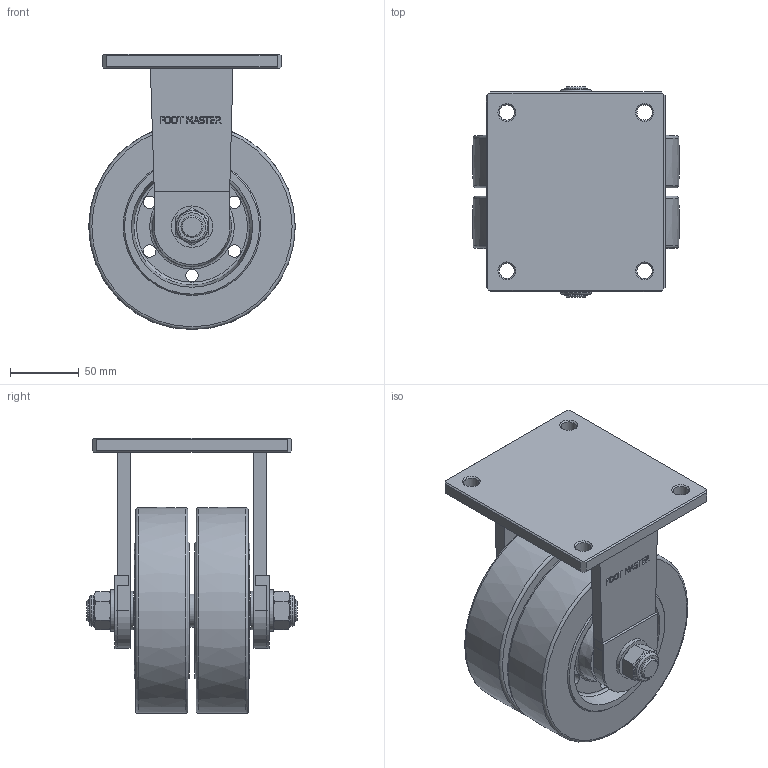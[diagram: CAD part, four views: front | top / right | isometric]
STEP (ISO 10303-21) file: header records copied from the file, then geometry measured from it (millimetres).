
FILE_DESCRIPTION((''),'2;1');
FILE_NAME('C:\Documents and Settings\Administrator\바탕 화면\3D STEP\GXTD-SERIES\GXTD-150\GXTD-150-RF.stp','2010-12-27T14:39:26',('Administrator'),(''),'Autodesk Inventor 2009','Autodesk Inventor 2009','');
FILE_SCHEMA(('AUTOMOTIVE_DESIGN { 1 0 10303 214 1 1 1 1 }'));
Length unit declared in the file: millimetre
Products named in the file (1): GXTD-150-RF
Bounding box: 150 x 153 x 199.73 mm (x, y, z)
Volume: 1505606 mm3; surface area: 234697.4 mm2
Topology: 13 solids, 13 shells, 427 faces, 1020 edges, 665 vertices
Faces by surface type: plane 221, cylinder 73, bspline 71, cone 40, torus 22
Full cylindrical faces by diameter (mm): 9 x12, 11 x4, 16 x4, 16.2 x2, 17 x8, 17.2 x4, 22.704 x2, 24 x3, 24.667 x8, 28 x2, 30 x2, 32.333 x8, 36 x2, 40 x8
Entity records: 12558 total; most frequent: CARTESIAN_POINT 3719, ORIENTED_EDGE 1644, DIRECTION 1636, EDGE_CURVE 822, EDGE_LOOP 678, VERTEX_POINT 610, AXIS2_PLACEMENT_3D 591, VECTOR 454
